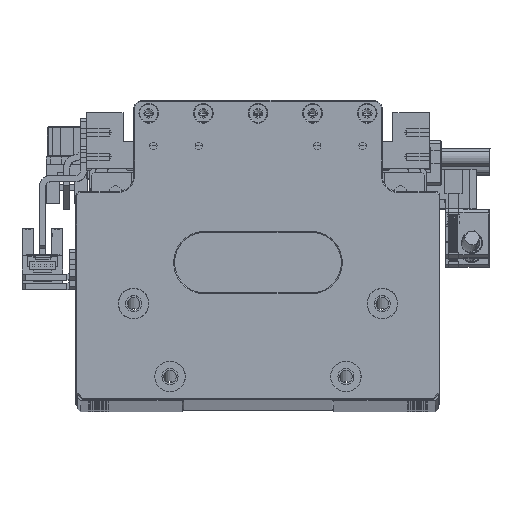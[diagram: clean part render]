
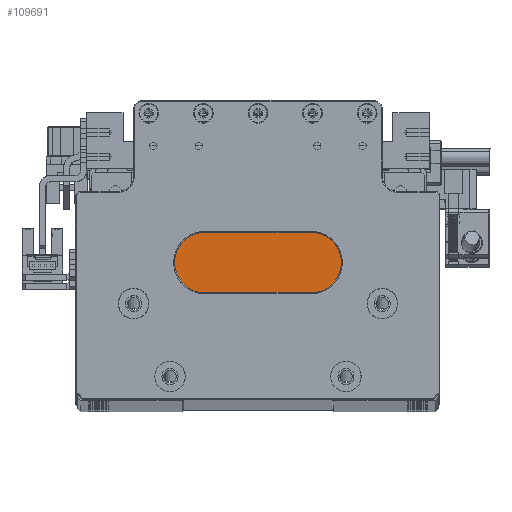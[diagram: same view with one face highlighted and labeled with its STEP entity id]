
A CAD part, top view. The second image highlights one B-rep face of the part: STEP entity #109691.
In plain terms, the highlighted planar face has unit normal (0, 0, 1).
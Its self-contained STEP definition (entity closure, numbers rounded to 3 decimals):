
#466 = CARTESIAN_POINT ( 'NONE',  ( -12.132, -17.023, 375. ) ) ;
#2895 = AXIS2_PLACEMENT_3D ( 'NONE', #27010, #100240, #37512 ) ;
#4627 = EDGE_CURVE ( 'NONE', #120321, #59993, #74413, .T. ) ;
#5886 = VECTOR ( 'NONE', #47668, 1000. ) ;
#7775 = LINE ( 'NONE', #82299, #84694 ) ;
#9136 = DIRECTION ( 'NONE',  ( 0., -1., 0. ) ) ;
#9585 = DIRECTION ( 'NONE',  ( 0., 1., 0. ) ) ;
#10418 = AXIS2_PLACEMENT_3D ( 'NONE', #18429, #91596, #29008 ) ;
#11086 = DIRECTION ( 'NONE',  ( 1., 0., 0. ) ) ;
#11638 = CARTESIAN_POINT ( 'NONE',  ( -34.432, -17.023, 375. ) ) ;
#13080 = FACE_OUTER_BOUND ( 'NONE', #75738, .T. ) ;
#18429 = CARTESIAN_POINT ( 'NONE',  ( -4.632, -9.023, 375. ) ) ;
#19750 = ORIENTED_EDGE ( 'NONE', *, *, #41649, .T. ) ;
#20307 = EDGE_CURVE ( 'NONE', #86555, #126895, #99658, .T. ) ;
#20816 = EDGE_CURVE ( 'NONE', #125313, #95849, #7775, .T. ) ;
#20829 = EDGE_CURVE ( 'NONE', #60383, #125313, #81405, .T. ) ;
#22334 = VECTOR ( 'NONE', #9585, 1000. ) ;
#25595 = CIRCLE ( 'NONE', #80700, 1.25 ) ;
#25835 = VECTOR ( 'NONE', #41202, 1000. ) ;
#26704 = EDGE_LOOP ( 'NONE', ( #107979, #97881 ) ) ;
#27010 = CARTESIAN_POINT ( 'NONE',  ( -12.132, -17.023, 375. ) ) ;
#27094 = EDGE_CURVE ( 'NONE', #126895, #86555, #72656, .T. ) ;
#29008 = DIRECTION ( 'NONE',  ( 1., 0., 0. ) ) ;
#30730 = CARTESIAN_POINT ( 'NONE',  ( -4.632, -17.023, 375. ) ) ;
#32254 = ORIENTED_EDGE ( 'NONE', *, *, #56797, .T. ) ;
#37512 = DIRECTION ( 'NONE',  ( 1., 0., 0. ) ) ;
#41202 = DIRECTION ( 'NONE',  ( -1., 0., 0. ) ) ;
#41649 = EDGE_CURVE ( 'NONE', #70248, #60383, #120698, .T. ) ;
#42005 = CARTESIAN_POINT ( 'NONE',  ( -13.382, -17.023, 375. ) ) ;
#44418 = ORIENTED_EDGE ( 'NONE', *, *, #48052, .T. ) ;
#45532 = VERTEX_POINT ( 'NONE', #107896 ) ;
#46334 = EDGE_CURVE ( 'NONE', #95849, #84994, #103035, .T. ) ;
#46730 = VECTOR ( 'NONE', #92484, 1000. ) ;
#47256 = VECTOR ( 'NONE', #133385, 1000. ) ;
#47668 = DIRECTION ( 'NONE',  ( 0., -1., 0. ) ) ;
#48052 = EDGE_CURVE ( 'NONE', #84994, #45532, #53334, .T. ) ;
#49602 = VERTEX_POINT ( 'NONE', #42005 ) ;
#50953 = CARTESIAN_POINT ( 'NONE',  ( 2.868, -17.023, 375. ) ) ;
#53121 = DIRECTION ( 'NONE',  ( 0., 0., -1. ) ) ;
#53334 = LINE ( 'NONE', #93786, #22334 ) ;
#53915 = DIRECTION ( 'NONE',  ( -1., 0., 0. ) ) ;
#56797 = EDGE_CURVE ( 'NONE', #59993, #70248, #121464, .T. ) ;
#57010 = CIRCLE ( 'NONE', #2895, 1.25 ) ;
#59993 = VERTEX_POINT ( 'NONE', #117393 ) ;
#60383 = VERTEX_POINT ( 'NONE', #72620 ) ;
#61438 = DIRECTION ( 'NONE',  ( 1., 0., 0. ) ) ;
#61499 = CARTESIAN_POINT ( 'NONE',  ( 1.618, -17.023, 375. ) ) ;
#65342 = FACE_BOUND ( 'NONE', #26704, .T. ) ;
#65615 = ORIENTED_EDGE ( 'NONE', *, *, #20816, .T. ) ;
#67611 = LINE ( 'NONE', #127406, #130162 ) ;
#70248 = VERTEX_POINT ( 'NONE', #114673 ) ;
#71332 = CARTESIAN_POINT ( 'NONE',  ( 13.868, -9.023, 375. ) ) ;
#71590 = AXIS2_PLACEMENT_3D ( 'NONE', #50953, #124355, #61438 ) ;
#71860 = EDGE_CURVE ( 'NONE', #127134, #49602, #25595, .T. ) ;
#72248 = ORIENTED_EDGE ( 'NONE', *, *, #27094, .T. ) ;
#72620 = CARTESIAN_POINT ( 'NONE',  ( -23.132, -17.023, 375. ) ) ;
#72656 = CIRCLE ( 'NONE', #71590, 1.25 ) ;
#72751 = AXIS2_PLACEMENT_3D ( 'NONE', #116050, #53121, #126600 ) ;
#73608 = DIRECTION ( 'NONE',  ( 0., 0., -1. ) ) ;
#74191 = EDGE_LOOP ( 'NONE', ( #93641, #72248 ) ) ;
#74413 = LINE ( 'NONE', #71332, #46730 ) ;
#74996 = ORIENTED_EDGE ( 'NONE', *, *, #20829, .T. ) ;
#75738 = EDGE_LOOP ( 'NONE', ( #32254, #19750, #74996, #65615, #84795, #44418, #129683, #81774 ) ) ;
#80700 = AXIS2_PLACEMENT_3D ( 'NONE', #466, #73608, #11086 ) ;
#80968 = CARTESIAN_POINT ( 'NONE',  ( -34.632, -49.223, 375. ) ) ;
#81405 = LINE ( 'NONE', #30730, #25835 ) ;
#81774 = ORIENTED_EDGE ( 'NONE', *, *, #4627, .T. ) ;
#82299 = CARTESIAN_POINT ( 'NONE',  ( -34.432, -9.023, 375. ) ) ;
#84694 = VECTOR ( 'NONE', #9136, 1000. ) ;
#84795 = ORIENTED_EDGE ( 'NONE', *, *, #46334, .T. ) ;
#84994 = VERTEX_POINT ( 'NONE', #131232 ) ;
#86555 = VERTEX_POINT ( 'NONE', #95018 ) ;
#91596 = DIRECTION ( 'NONE',  ( 0., 0., 1. ) ) ;
#92484 = DIRECTION ( 'NONE',  ( 0., 1., 0. ) ) ;
#93282 = FACE_BOUND ( 'NONE', #74191, .T. ) ;
#93641 = ORIENTED_EDGE ( 'NONE', *, *, #20307, .T. ) ;
#93786 = CARTESIAN_POINT ( 'NONE',  ( 25.168, -9.023, 375. ) ) ;
#95018 = CARTESIAN_POINT ( 'NONE',  ( 4.118, -17.023, 375. ) ) ;
#95849 = VERTEX_POINT ( 'NONE', #118390 ) ;
#97881 = ORIENTED_EDGE ( 'NONE', *, *, #115839, .T. ) ;
#99658 = CIRCLE ( 'NONE', #72751, 1.25 ) ;
#99745 = EDGE_CURVE ( 'NONE', #45532, #120321, #67611, .T. ) ;
#100240 = DIRECTION ( 'NONE',  ( 0., 0., -1. ) ) ;
#103035 = LINE ( 'NONE', #80968, #47256 ) ;
#107878 = CARTESIAN_POINT ( 'NONE',  ( -10.882, -17.023, 375. ) ) ;
#107896 = CARTESIAN_POINT ( 'NONE',  ( 25.168, -17.023, 375. ) ) ;
#107979 = ORIENTED_EDGE ( 'NONE', *, *, #71860, .T. ) ;
#109691 = ADVANCED_FACE ( 'NONE', ( #13080, #93282, #65342 ), #133438, .T. ) ;
#110515 = CARTESIAN_POINT ( 'NONE',  ( -23.132, -9.023, 375. ) ) ;
#114673 = CARTESIAN_POINT ( 'NONE',  ( -23.132, -9.223, 375. ) ) ;
#115839 = EDGE_CURVE ( 'NONE', #49602, #127134, #57010, .T. ) ;
#115907 = CARTESIAN_POINT ( 'NONE',  ( -4.632, -9.223, 375. ) ) ;
#116050 = CARTESIAN_POINT ( 'NONE',  ( 2.868, -17.023, 375. ) ) ;
#117393 = CARTESIAN_POINT ( 'NONE',  ( 13.868, -9.223, 375. ) ) ;
#118170 = VECTOR ( 'NONE', #126456, 1000. ) ;
#118390 = CARTESIAN_POINT ( 'NONE',  ( -34.432, -49.223, 375. ) ) ;
#120321 = VERTEX_POINT ( 'NONE', #122283 ) ;
#120698 = LINE ( 'NONE', #110515, #5886 ) ;
#121464 = LINE ( 'NONE', #115907, #118170 ) ;
#122283 = CARTESIAN_POINT ( 'NONE',  ( 13.868, -17.023, 375. ) ) ;
#124355 = DIRECTION ( 'NONE',  ( 0., 0., -1. ) ) ;
#125313 = VERTEX_POINT ( 'NONE', #11638 ) ;
#126456 = DIRECTION ( 'NONE',  ( -1., 0., 0. ) ) ;
#126600 = DIRECTION ( 'NONE',  ( 1., 0., 0. ) ) ;
#126895 = VERTEX_POINT ( 'NONE', #61499 ) ;
#127134 = VERTEX_POINT ( 'NONE', #107878 ) ;
#127406 = CARTESIAN_POINT ( 'NONE',  ( -4.632, -17.023, 375. ) ) ;
#129683 = ORIENTED_EDGE ( 'NONE', *, *, #99745, .T. ) ;
#130162 = VECTOR ( 'NONE', #53915, 1000. ) ;
#131232 = CARTESIAN_POINT ( 'NONE',  ( 25.168, -49.223, 375. ) ) ;
#133385 = DIRECTION ( 'NONE',  ( 1., 0., 0. ) ) ;
#133438 = PLANE ( 'NONE',  #10418 ) ;
